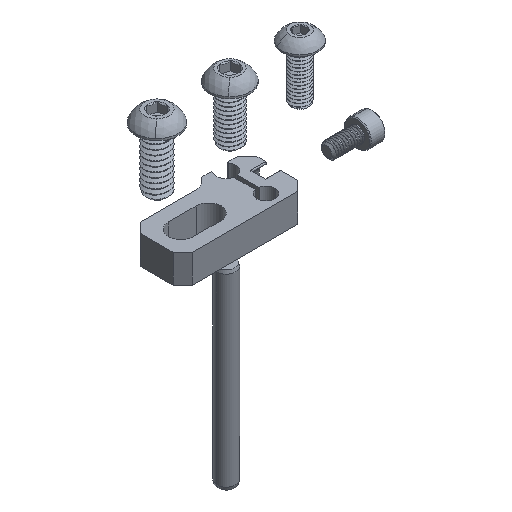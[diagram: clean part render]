
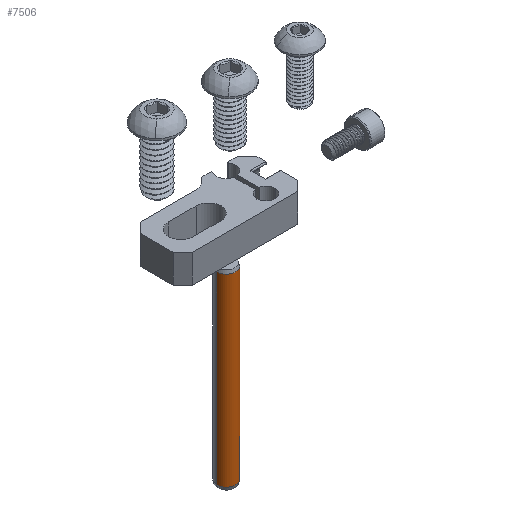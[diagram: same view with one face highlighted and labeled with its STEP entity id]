
A CAD part, isometric view. The second image highlights one B-rep face of the part: STEP entity #7506.
In plain terms, the highlighted cylindrical face has radius 2.5 mm (diameter 5 mm), a partial arc.
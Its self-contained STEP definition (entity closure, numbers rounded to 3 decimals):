
#151 = ORIENTED_EDGE ( 'NONE', *, *, #5181, .T. ) ;
#271 = CIRCLE ( 'NONE', #13178, 2.5 ) ;
#494 = LINE ( 'NONE', #10833, #1875 ) ;
#819 = ORIENTED_EDGE ( 'NONE', *, *, #5495, .F. ) ;
#880 = ORIENTED_EDGE ( 'NONE', *, *, #14706, .F. ) ;
#1172 = AXIS2_PLACEMENT_3D ( 'NONE', #4308, #11631, #15952 ) ;
#1241 = VECTOR ( 'NONE', #4633, 1000. ) ;
#1394 = CIRCLE ( 'NONE', #1172, 2.5 ) ;
#1875 = VECTOR ( 'NONE', #6413, 1000. ) ;
#2724 = CARTESIAN_POINT ( 'NONE',  ( -24.2, 0., -2.5 ) ) ;
#3189 = ORIENTED_EDGE ( 'NONE', *, *, #7113, .F. ) ;
#3731 = DIRECTION ( 'NONE',  ( 1., 0., 0. ) ) ;
#4308 = CARTESIAN_POINT ( 'NONE',  ( 24.2, 0., 0. ) ) ;
#4522 = DIRECTION ( 'NONE',  ( -1., 0., 0. ) ) ;
#4633 = DIRECTION ( 'NONE',  ( 1., 0., 0. ) ) ;
#5181 = EDGE_CURVE ( 'NONE', #12744, #16771, #494, .T. ) ;
#5495 = EDGE_CURVE ( 'NONE', #12744, #15630, #271, .T. ) ;
#6173 = DIRECTION ( 'NONE',  ( 0., 0., 1. ) ) ;
#6413 = DIRECTION ( 'NONE',  ( 1., 0., 0. ) ) ;
#7113 = EDGE_CURVE ( 'NONE', #14160, #16771, #1394, .T. ) ;
#7272 = CARTESIAN_POINT ( 'NONE',  ( 24.2, 0., -2.5 ) ) ;
#7506 = ADVANCED_FACE ( 'NONE', ( #8098 ), #16826, .T. ) ;
#8098 = FACE_OUTER_BOUND ( 'NONE', #12280, .T. ) ;
#9917 = DIRECTION ( 'NONE',  ( 0., 0., -1. ) ) ;
#10014 = CARTESIAN_POINT ( 'NONE',  ( 24.2, 0., 2.5 ) ) ;
#10266 = CARTESIAN_POINT ( 'NONE',  ( -24.2, 0., 2.5 ) ) ;
#10421 = CARTESIAN_POINT ( 'NONE',  ( -24.2, 0., 0. ) ) ;
#10833 = CARTESIAN_POINT ( 'NONE',  ( -24.2, 0., -2.5 ) ) ;
#11631 = DIRECTION ( 'NONE',  ( 1., 0., 0. ) ) ;
#11982 = LINE ( 'NONE', #10266, #1241 ) ;
#12280 = EDGE_LOOP ( 'NONE', ( #880, #819, #151, #3189 ) ) ;
#12744 = VERTEX_POINT ( 'NONE', #2724 ) ;
#13178 = AXIS2_PLACEMENT_3D ( 'NONE', #10421, #4522, #6173 ) ;
#13930 = AXIS2_PLACEMENT_3D ( 'NONE', #15360, #3731, #9917 ) ;
#14160 = VERTEX_POINT ( 'NONE', #10014 ) ;
#14706 = EDGE_CURVE ( 'NONE', #15630, #14160, #11982, .T. ) ;
#15360 = CARTESIAN_POINT ( 'NONE',  ( -24.2, 0., 0. ) ) ;
#15630 = VERTEX_POINT ( 'NONE', #16048 ) ;
#15952 = DIRECTION ( 'NONE',  ( 0., 0., -1. ) ) ;
#16048 = CARTESIAN_POINT ( 'NONE',  ( -24.2, 0., 2.5 ) ) ;
#16771 = VERTEX_POINT ( 'NONE', #7272 ) ;
#16826 = CYLINDRICAL_SURFACE ( 'NONE', #13930, 2.5 ) ;
